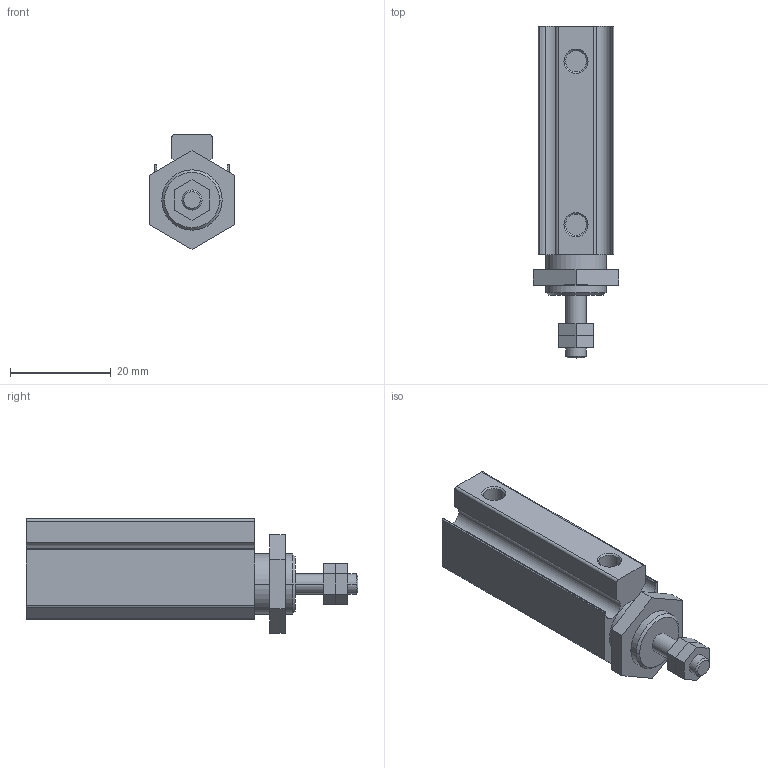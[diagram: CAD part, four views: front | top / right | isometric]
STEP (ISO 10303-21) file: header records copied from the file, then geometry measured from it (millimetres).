
FILE_DESCRIPTION((''),'2;1');
FILE_NAME('C:\Documents and Settings\Administrator\桌面\AAP-3D\AAP10X20.stp','2010-08-19T19:57:06',('Administrator'),(''),'Autodesk Inventor 8','Autodesk Inventor 8','');
FILE_SCHEMA(('AUTOMOTIVE_DESIGN { 1 0 10303 214 1 1 1 1 }'));
Length unit declared in the file: millimetre
Products named in the file (1): AAP10X20
Bounding box: 17 x 66 x 22.82 mm (x, y, z)
Volume: 12044.6 mm3; surface area: 5013.4 mm2
Topology: 1 solids, 1 shells, 76 faces, 184 edges, 120 vertices
Faces by surface type: plane 40, cylinder 28, cone 8
Entity records: 2251 total; most frequent: DIRECTION 402, CARTESIAN_POINT 381, ORIENTED_EDGE 368, EDGE_CURVE 184, AXIS2_PLACEMENT_3D 141, VERTEX_POINT 120, VECTOR 120, LINE 120
